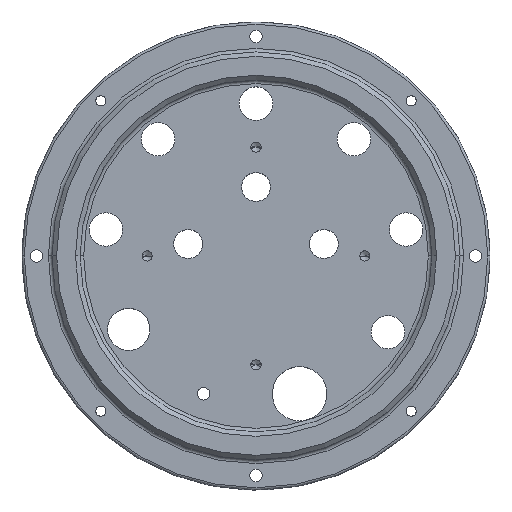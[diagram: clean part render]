
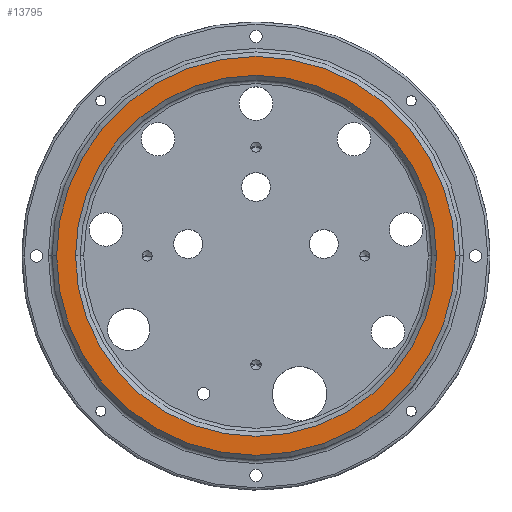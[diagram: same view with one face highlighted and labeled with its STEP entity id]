
A CAD part, top view. The second image highlights one B-rep face of the part: STEP entity #13795.
In plain terms, the highlighted planar face has unit normal (0, 0, 1).
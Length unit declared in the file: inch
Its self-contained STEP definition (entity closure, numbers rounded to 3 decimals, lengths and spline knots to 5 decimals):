
#397 = FACE_OUTER_BOUND ( 'NONE', #4569, .T. ) ;
#1886 = AXIS2_PLACEMENT_3D ( 'NONE', #4217, #8988, #17963 ) ;
#2158 = EDGE_LOOP ( 'NONE', ( #4907, #5684 ) ) ;
#3566 = CARTESIAN_POINT ( 'NONE',  ( 0., 0., 1.4 ) ) ;
#4217 = CARTESIAN_POINT ( 'NONE',  ( 0., 0., 1.4 ) ) ;
#4438 = ORIENTED_EDGE ( 'NONE', *, *, #11285, .T. ) ;
#4569 = EDGE_LOOP ( 'NONE', ( #4438, #13696 ) ) ;
#4712 = DIRECTION ( 'NONE',  ( 0., 0., 1. ) ) ;
#4907 = ORIENTED_EDGE ( 'NONE', *, *, #8488, .T. ) ;
#5684 = ORIENTED_EDGE ( 'NONE', *, *, #18825, .T. ) ;
#6082 = CARTESIAN_POINT ( 'NONE',  ( 0., 0., 1.4 ) ) ;
#7546 = CIRCLE ( 'NONE', #15517, 2.4875 ) ;
#8488 = EDGE_CURVE ( 'NONE', #15693, #15861, #7546, .T. ) ;
#8867 = VERTEX_POINT ( 'NONE', #16610 ) ;
#8927 = DIRECTION ( 'NONE',  ( 0., 0., 1. ) ) ;
#8988 = DIRECTION ( 'NONE',  ( 0., 0., 1. ) ) ;
#9138 = CIRCLE ( 'NONE', #9497, 2.7485 ) ;
#9497 = AXIS2_PLACEMENT_3D ( 'NONE', #6082, #4712, #22116 ) ;
#10012 = DIRECTION ( 'NONE',  ( 0., 0., -1. ) ) ;
#11248 = VERTEX_POINT ( 'NONE', #13449 ) ;
#11285 = EDGE_CURVE ( 'NONE', #11248, #8867, #9138, .T. ) ;
#11682 = CIRCLE ( 'NONE', #1886, 2.7485 ) ;
#13449 = CARTESIAN_POINT ( 'NONE',  ( -2.7485, 0., 1.4 ) ) ;
#13696 = ORIENTED_EDGE ( 'NONE', *, *, #19246, .T. ) ;
#13795 = ADVANCED_FACE ( 'NONE', ( #17675, #397 ), #14257, .T. ) ;
#14257 = PLANE ( 'NONE',  #14311 ) ;
#14311 = AXIS2_PLACEMENT_3D ( 'NONE', #19839, #8927, #21213 ) ;
#15517 = AXIS2_PLACEMENT_3D ( 'NONE', #17174, #10012, #22307 ) ;
#15693 = VERTEX_POINT ( 'NONE', #18861 ) ;
#15861 = VERTEX_POINT ( 'NONE', #19149 ) ;
#16610 = CARTESIAN_POINT ( 'NONE',  ( 2.7485, 0., 1.4 ) ) ;
#17174 = CARTESIAN_POINT ( 'NONE',  ( 0., 0., 1.4 ) ) ;
#17652 = DIRECTION ( 'NONE',  ( 1., 0., 0. ) ) ;
#17675 = FACE_BOUND ( 'NONE', #2158, .T. ) ;
#17963 = DIRECTION ( 'NONE',  ( 1., 0., 0. ) ) ;
#18825 = EDGE_CURVE ( 'NONE', #15861, #15693, #20413, .T. ) ;
#18861 = CARTESIAN_POINT ( 'NONE',  ( 2.4875, 0., 1.4 ) ) ;
#19149 = CARTESIAN_POINT ( 'NONE',  ( -2.4875, 0., 1.4 ) ) ;
#19246 = EDGE_CURVE ( 'NONE', #8867, #11248, #11682, .T. ) ;
#19839 = CARTESIAN_POINT ( 'NONE',  ( 0., 0., 1.4 ) ) ;
#20413 = CIRCLE ( 'NONE', #21146, 2.4875 ) ;
#21146 = AXIS2_PLACEMENT_3D ( 'NONE', #3566, #22339, #17652 ) ;
#21213 = DIRECTION ( 'NONE',  ( 1., 0., 0. ) ) ;
#22116 = DIRECTION ( 'NONE',  ( 1., 0., 0. ) ) ;
#22307 = DIRECTION ( 'NONE',  ( 1., 0., 0. ) ) ;
#22339 = DIRECTION ( 'NONE',  ( 0., 0., -1. ) ) ;
